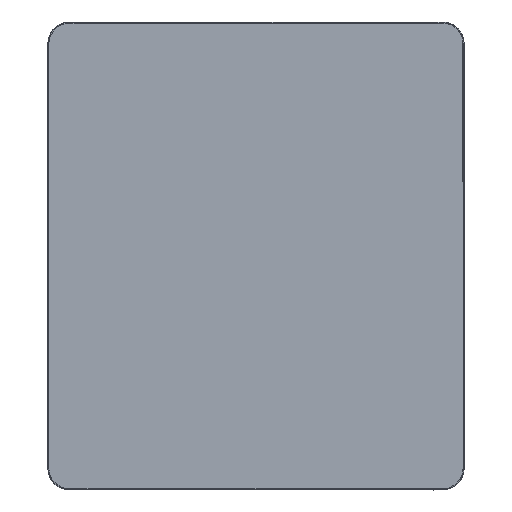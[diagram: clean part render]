
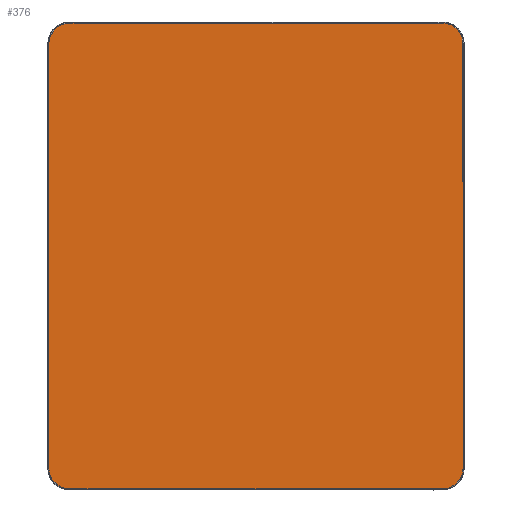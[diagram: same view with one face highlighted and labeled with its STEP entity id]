
A CAD part, top view. The second image highlights one B-rep face of the part: STEP entity #376.
In plain terms, the highlighted planar face has unit normal (0, 0, 1).
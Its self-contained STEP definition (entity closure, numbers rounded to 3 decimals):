
#206=PLANE('',#3101);
#376=ADVANCED_FACE('',(#587),#206,.F.);
#587=FACE_OUTER_BOUND('',#792,.T.);
#792=EDGE_LOOP('',(#1245));
#1245=ORIENTED_EDGE('',*,*,#2234,.T.);
#1897=VERTEX_POINT('',#24041);
#2234=EDGE_CURVE('',#1897,#1897,#2658,.T.);
#2658=B_SPLINE_CURVE_WITH_KNOTS('',3,(#23928,#23929,#23930,#23931,#23932,
#23933,#23934,#23935,#23936,#23937,#23938,#23939,#23940,#23941,#23942,#23943,
#23944,#23945,#23946,#23947,#23948,#23949,#23950,#23951,#23952,#23953,#23954,
#23955,#23956,#23957,#23958,#23959,#23960,#23961,#23962,#23963,#23964,#23965,
#23966,#23967,#23968,#23969,#23970,#23971,#23972,#23973,#23974,#23975,#23976,
#23977,#23978,#23979,#23980,#23981,#23982,#23983,#23984,#23985,#23986,#23987,
#23988,#23989,#23990,#23991,#23992,#23993,#23994,#23995,#23996,#23997,#23998,
#23999,#24000,#24001,#24002,#24003,#24004,#24005,#24006,#24007,#24008,#24009,
#24010,#24011,#24012,#24013,#24014,#24015,#24016,#24017,#24018,#24019,#24020,
#24021,#24022,#24023,#24024,#24025,#24026,#24027,#24028,#24029,#24030,#24031,
#24032,#24033,#24034,#24035,#24036,#24037,#24038,#24039,#24040),
 .UNSPECIFIED.,.T.,.F.,(2,2,2,2,2,2,2,2,2,2,2,2,2,2,2,2,2,2,2,2,2,2,2,2,
2,2,2,1,2,2,2,2,2,2,2,2,2,2,1,1,2,2,2,2,2,2,2,2,2,2,2,2,2,2,2,2,1,1,2,2,
2),(-0.008,0.,0.063,0.094,0.102,
0.105,0.109,0.117,0.125,
0.129,0.133,0.141,0.156,
0.188,0.25,0.313,0.344,
0.359,0.367,0.371,0.375,
0.383,0.387,0.389,0.391,
0.406,0.438,0.5,0.563,
0.594,0.602,0.605,0.607,
0.609,0.617,0.625,0.629,
0.633,0.641,0.656,0.688,
0.75,0.813,0.844,0.859,0.867,0.871,0.873,
0.875,0.883,0.891,0.893,0.895,0.898,0.906,
0.938,0.969,0.984,0.992,1.,1.063),.UNSPECIFIED.);
#3101=AXIS2_PLACEMENT_3D('',#24042,#3325,#3326);
#3325=DIRECTION('',(0.,0.,-1.));
#3326=DIRECTION('',(0.,1.,0.));
#23928=CARTESIAN_POINT('',(-5.527,-286.046,5.975));
#23929=CARTESIAN_POINT('',(44.218,-286.046,5.975));
#23930=CARTESIAN_POINT('',(88.435,-286.046,5.975));
#23931=CARTESIAN_POINT('',(154.762,-286.046,5.975));
#23932=CARTESIAN_POINT('',(176.871,-286.046,5.975));
#23933=CARTESIAN_POINT('',(204.507,-286.046,5.975));
#23934=CARTESIAN_POINT('',(210.034,-286.046,5.975));
#23935=CARTESIAN_POINT('',(218.325,-286.046,5.975));
#23936=CARTESIAN_POINT('',(221.089,-286.046,5.975));
#23937=CARTESIAN_POINT('',(226.616,-286.046,5.975));
#23938=CARTESIAN_POINT('',(229.386,-286.172,5.975));
#23939=CARTESIAN_POINT('',(237.656,-285.072,5.975));
#23940=CARTESIAN_POINT('',(242.773,-282.512,5.975));
#23941=CARTESIAN_POINT('',(250.632,-274.721,5.975));
#23942=CARTESIAN_POINT('',(253.229,-269.563,5.975));
#23943=CARTESIAN_POINT('',(254.429,-261.38,5.975));
#23944=CARTESIAN_POINT('',(254.296,-258.568,5.975));
#23945=CARTESIAN_POINT('',(254.298,-253.012,5.975));
#23946=CARTESIAN_POINT('',(254.297,-250.234,5.975));
#23947=CARTESIAN_POINT('',(254.295,-241.9,5.975));
#23948=CARTESIAN_POINT('',(254.296,-236.344,5.975));
#23949=CARTESIAN_POINT('',(254.297,-219.677,5.975));
#23950=CARTESIAN_POINT('',(254.296,-208.565,5.975));
#23951=CARTESIAN_POINT('',(254.296,-175.23,5.975));
#23952=CARTESIAN_POINT('',(254.296,-153.007,5.975));
#23953=CARTESIAN_POINT('',(254.297,-86.336,5.975));
#23954=CARTESIAN_POINT('',(254.296,-41.889,5.975));
#23955=CARTESIAN_POINT('',(254.296,47.004,5.975));
#23956=CARTESIAN_POINT('',(254.297,91.451,5.975));
#23957=CARTESIAN_POINT('',(254.296,158.121,5.975));
#23958=CARTESIAN_POINT('',(254.296,180.345,5.975));
#23959=CARTESIAN_POINT('',(254.297,213.68,5.975));
#23960=CARTESIAN_POINT('',(254.296,224.792,5.975));
#23961=CARTESIAN_POINT('',(254.295,241.459,5.975));
#23962=CARTESIAN_POINT('',(254.298,247.015,5.975));
#23963=CARTESIAN_POINT('',(254.298,255.349,5.975));
#23964=CARTESIAN_POINT('',(254.347,258.127,5.975));
#23965=CARTESIAN_POINT('',(254.23,263.683,5.975));
#23966=CARTESIAN_POINT('',(253.738,266.378,5.975));
#23967=CARTESIAN_POINT('',(250.957,274.203,5.975));
#23968=CARTESIAN_POINT('',(247.421,278.719,5.975));
#23969=CARTESIAN_POINT('',(240.534,283.295,5.975));
#23970=CARTESIAN_POINT('',(238.003,284.442,5.975));
#23971=CARTESIAN_POINT('',(234.018,285.517,5.975));
#23972=CARTESIAN_POINT('',(232.644,285.775,5.975));
#23973=CARTESIAN_POINT('',(229.917,286.039,5.975));
#23974=CARTESIAN_POINT('',(228.552,286.05,5.975));
#23975=CARTESIAN_POINT('',(216.266,286.064,5.975));
#23976=CARTESIAN_POINT('',(205.345,286.046,5.975));
#23977=CARTESIAN_POINT('',(172.583,286.046,5.975));
#23978=CARTESIAN_POINT('',(150.742,286.046,5.975));
#23979=CARTESIAN_POINT('',(85.218,286.046,5.975));
#23980=CARTESIAN_POINT('',(-2.147,286.046,5.975));
#23981=CARTESIAN_POINT('',(-89.512,286.046,5.975));
#23982=CARTESIAN_POINT('',(-155.036,286.046,5.975));
#23983=CARTESIAN_POINT('',(-176.877,286.046,5.975));
#23984=CARTESIAN_POINT('',(-204.179,286.046,5.975));
#23985=CARTESIAN_POINT('',(-209.639,286.048,5.975));
#23986=CARTESIAN_POINT('',(-217.83,286.042,5.975));
#23987=CARTESIAN_POINT('',(-220.56,286.04,5.975));
#23988=CARTESIAN_POINT('',(-224.655,286.044,5.975));
#23989=CARTESIAN_POINT('',(-226.02,286.05,5.975));
#23990=CARTESIAN_POINT('',(-228.75,286.051,5.975));
#23991=CARTESIAN_POINT('',(-230.115,286.037,5.975));
#23992=CARTESIAN_POINT('',(-236.94,285.295,5.975));
#23993=CARTESIAN_POINT('',(-242.154,282.873,5.975));
#23994=CARTESIAN_POINT('',(-250.157,275.41,5.975));
#23995=CARTESIAN_POINT('',(-252.909,270.328,5.975));
#23996=CARTESIAN_POINT('',(-254.379,262.272,5.975));
#23997=CARTESIAN_POINT('',(-254.294,259.473,5.975));
#23998=CARTESIAN_POINT('',(-254.298,253.945,5.975));
#23999=CARTESIAN_POINT('',(-254.298,251.181,5.975));
#24000=CARTESIAN_POINT('',(-254.3,242.89,5.975));
#24001=CARTESIAN_POINT('',(-254.303,226.307,5.975));
#24002=CARTESIAN_POINT('',(-254.302,187.613,5.975));
#24003=CARTESIAN_POINT('',(-254.297,154.447,5.975));
#24004=CARTESIAN_POINT('',(-254.295,88.115,5.975));
#24005=CARTESIAN_POINT('',(-254.296,43.894,5.975));
#24006=CARTESIAN_POINT('',(-254.296,-44.549,5.975));
#24007=CARTESIAN_POINT('',(-254.297,-88.77,5.975));
#24008=CARTESIAN_POINT('',(-254.296,-155.102,5.975));
#24009=CARTESIAN_POINT('',(-254.296,-177.213,5.975));
#24010=CARTESIAN_POINT('',(-254.297,-210.379,5.975));
#24011=CARTESIAN_POINT('',(-254.297,-221.434,5.975));
#24012=CARTESIAN_POINT('',(-254.296,-238.017,5.975));
#24013=CARTESIAN_POINT('',(-254.295,-243.545,5.975));
#24014=CARTESIAN_POINT('',(-254.297,-251.836,5.975));
#24015=CARTESIAN_POINT('',(-254.297,-254.6,5.975));
#24016=CARTESIAN_POINT('',(-254.295,-258.746,5.975));
#24017=CARTESIAN_POINT('',(-254.324,-260.128,5.975));
#24018=CARTESIAN_POINT('',(-254.217,-262.891,5.975));
#24019=CARTESIAN_POINT('',(-254.043,-264.265,5.975));
#24020=CARTESIAN_POINT('',(-252.643,-270.955,5.975));
#24021=CARTESIAN_POINT('',(-249.748,-275.979,5.975));
#24022=CARTESIAN_POINT('',(-241.54,-283.236,5.975));
#24023=CARTESIAN_POINT('',(-236.247,-285.532,5.975));
#24024=CARTESIAN_POINT('',(-229.383,-286.056,5.975));
#24025=CARTESIAN_POINT('',(-228.01,-286.053,5.975));
#24026=CARTESIAN_POINT('',(-225.263,-286.05,5.975));
#24027=CARTESIAN_POINT('',(-223.889,-286.046,5.975));
#24028=CARTESIAN_POINT('',(-219.768,-286.046,5.975));
#24029=CARTESIAN_POINT('',(-217.021,-286.046,5.975));
#24030=CARTESIAN_POINT('',(-208.78,-286.046,5.975));
#24031=CARTESIAN_POINT('',(-203.286,-286.046,5.975));
#24032=CARTESIAN_POINT('',(-175.815,-286.046,5.975));
#24033=CARTESIAN_POINT('',(-153.838,-286.046,5.975));
#24034=CARTESIAN_POINT('',(-109.884,-286.046,5.975));
#24035=CARTESIAN_POINT('',(-76.919,-286.046,5.975));
#24036=CARTESIAN_POINT('',(-38.459,-286.046,5.975));
#24037=CARTESIAN_POINT('',(-21.977,-286.046,5.975));
#24038=CARTESIAN_POINT('',(-10.988,-286.046,5.975));
#24039=CARTESIAN_POINT('',(-5.527,-286.046,5.975));
#24040=CARTESIAN_POINT('',(44.218,-286.046,5.975));
#24041=CARTESIAN_POINT('',(0.,-286.046,5.975));
#24042=CARTESIAN_POINT('',(-5.758,-287.4,5.975));
